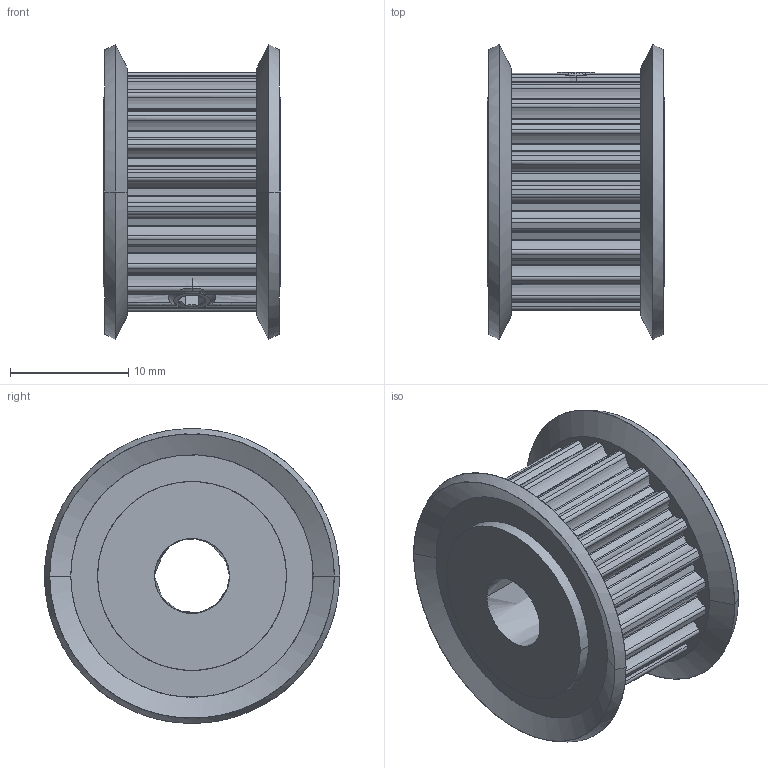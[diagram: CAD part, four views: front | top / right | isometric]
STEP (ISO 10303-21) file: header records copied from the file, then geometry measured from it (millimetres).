
FILE_DESCRIPTION(/* description */ (''),/* implementation_level */ '2;1');
FILE_NAME(/* name */ '6.y-drive#6.2#GPA22GT3090-A-P6.35',/* time_stamp */ '2014-12-01T20:14:01+01:00',/* author */ (''),/* organization */ (''),/* preprocessor_version */ 'ST-DEVELOPER v14',/* originating_system */ '',/* authorisation */ '');
FILE_SCHEMA (('AUTOMOTIVE_DESIGN'));
Length unit declared in the file: millimetre
Products named in the file (2): Document; pulley GPA22GT3090-A-P6.35
Assembly tree (1 placements, depth 2):
  Document
    pulley GPA22GT3090-A-P6.35
Bounding box: 15 x 25 x 24.99 mm (x, y, z)
Surface area: 3330.7 mm2 (no closed solid volume)
Topology: 0 solids, 264 shells, 264 faces, 981 edges, 981 vertices
Faces by surface type: bspline 240, plane 24
Entity records: 24421 total; most frequent: CARTESIAN_POINT 13244, B_SPLINE_CURVE_WITH_KNOTS 1458, ORIENTED_EDGE 981, PCURVE 981, DEFINITIONAL_REPRESENTATION 981, SURFACE_CURVE 981, EDGE_CURVE 981, VERTEX_POINT 981
